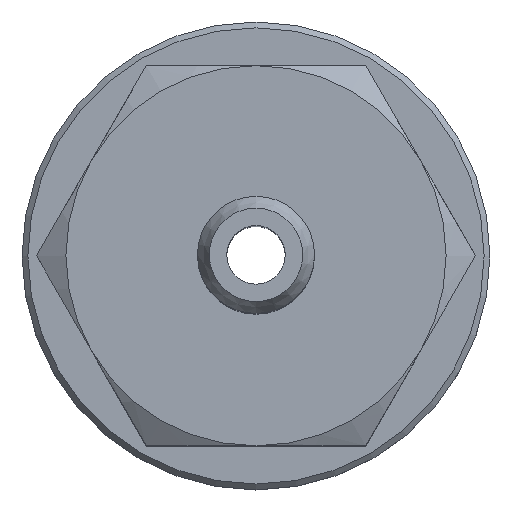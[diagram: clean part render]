
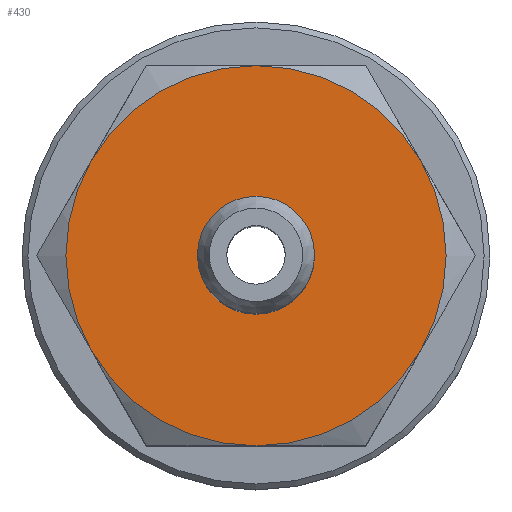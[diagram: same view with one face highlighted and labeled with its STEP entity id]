
A CAD part, top view. The second image highlights one B-rep face of the part: STEP entity #430.
In plain terms, the highlighted planar face has unit normal (0, 0, 1).
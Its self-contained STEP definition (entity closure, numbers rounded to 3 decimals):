
#430=ADVANCED_FACE('', (#440,#450), #460, .T.);
#1920=AXIS2_PLACEMENT_3D('Ax2Pl3d', #1930, #1940, #1950);
#2360=AXIS2_PLACEMENT_3D('Ax2Pl3d', #2370, #2380, #2390);
#2400=AXIS2_PLACEMENT_3D('Ax2Pl3d', #2410, #2420, #2430);
#2440=AXIS2_PLACEMENT_3D('Ax2Pl3d', #2450, #2460, #2470);
#2480=AXIS2_PLACEMENT_3D('Ax2Pl3d', #2490, #2500, #2510);
#2520=AXIS2_PLACEMENT_3D('Ax2Pl3d', #2530, #2540, #2550);
#2560=AXIS2_PLACEMENT_3D('Ax2Pl3d', #2570, #2580, #2590);
#2600=AXIS2_PLACEMENT_3D('Ax2Pl3d', #2610, #2620, #2630);
#1930=CARTESIAN_POINT('HicPkt', (11.006,12.647,
24.368));
#6130=CARTESIAN_POINT('', (16.635,9.397,24.368));
#6140=CARTESIAN_POINT('', (11.006,6.147,24.368));
#6210=CARTESIAN_POINT('', (5.376,9.397,24.368));
#6350=CARTESIAN_POINT('', (16.635,15.897,24.368));
#6400=CARTESIAN_POINT('', (11.006,19.147,24.368));
#6420=CARTESIAN_POINT('', (5.376,15.897,24.368));
#2370=CARTESIAN_POINT('HicPkt', (17.506,12.647,
24.368));
#2410=CARTESIAN_POINT('HicPkt', (11.006,12.647,
24.368));
#2450=CARTESIAN_POINT('HicPkt', (11.006,12.647,
24.368));
#2490=CARTESIAN_POINT('HicPkt', (11.006,12.647,
24.368));
#2530=CARTESIAN_POINT('HicPkt', (11.006,12.647,
24.368));
#2570=CARTESIAN_POINT('HicPkt', (11.006,12.647,
24.368));
#2610=CARTESIAN_POINT('HicPkt', (11.006,12.647,
24.368));
#6450=CARTESIAN_POINT('', (11.006,14.647,24.368));
#6750=CIRCLE('Circle', #1920, 6.5);
#6780=CIRCLE('Circle', #2400, 6.5);
#6790=CIRCLE('Circle', #2440, 6.5);
#6800=CIRCLE('Circle', #2480, 6.5);
#6810=CIRCLE('Circle', #2520, 6.5);
#6820=CIRCLE('Circle', #2560, 6.5);
#6830=CIRCLE('Circle', #2600, 2.);
#1940=DIRECTION('Axis', (0.,0.,-1.));
#1950=DIRECTION('RefDirection', (-1.,-0.,0.));
#2380=DIRECTION('Axis', (0.,0.,1.));
#2390=DIRECTION('RefDirection', (1.,0.,-0.));
#2420=DIRECTION('Axis', (0.,0.,-1.));
#2430=DIRECTION('RefDirection', (-1.,-0.,0.));
#2460=DIRECTION('Axis', (0.,0.,-1.));
#2470=DIRECTION('RefDirection', (-1.,-0.,0.));
#2500=DIRECTION('Axis', (0.,0.,-1.));
#2510=DIRECTION('RefDirection', (-1.,-0.,0.));
#2540=DIRECTION('Axis', (0.,0.,-1.));
#2550=DIRECTION('RefDirection', (-1.,-0.,0.));
#2580=DIRECTION('Axis', (0.,0.,-1.));
#2590=DIRECTION('RefDirection', (-1.,-0.,0.));
#2620=DIRECTION('Axis', (0.,0.,1.));
#2630=DIRECTION('RefDirection', (1.,0.,-0.));
#9210=EDGE_CURVE('', #9220, #9230, #6750, .T.);
#9800=EDGE_CURVE('', #9600, #9220, #6780, .T.);
#9810=EDGE_CURVE('', #9690, #9600, #6790, .T.);
#9820=EDGE_CURVE('', #9740, #9690, #6800, .T.);
#9830=EDGE_CURVE('', #9350, #9740, #6810, .T.);
#9840=EDGE_CURVE('', #9230, #9350, #6820, .T.);
#9850=EDGE_CURVE('', #9860, #9860, #6830, .T.);
#11020=EDGE_LOOP('Edge_loop', (#11030,#11040,#11050,#11060,#11070,
#11080));
#11090=EDGE_LOOP('Edge_loop', (#11100));
#450=FACE_BOUND('', #11090, .T.);
#440=FACE_OUTER_BOUND('Face_outer_bound', #11020, .T.);
#11030=ORIENTED_EDGE('', *, *, #9210, .F.);
#11040=ORIENTED_EDGE('', *, *, #9800, .F.);
#11050=ORIENTED_EDGE('', *, *, #9810, .F.);
#11060=ORIENTED_EDGE('', *, *, #9820, .F.);
#11070=ORIENTED_EDGE('', *, *, #9830, .F.);
#11080=ORIENTED_EDGE('', *, *, #9840, .F.);
#11100=ORIENTED_EDGE('', *, *, #9850, .F.);
#460=PLANE('Plane', #2360);
#9220=VERTEX_POINT('', #6130);
#9230=VERTEX_POINT('', #6140);
#9350=VERTEX_POINT('', #6210);
#9600=VERTEX_POINT('', #6350);
#9690=VERTEX_POINT('', #6400);
#9740=VERTEX_POINT('', #6420);
#9860=VERTEX_POINT('', #6450);
